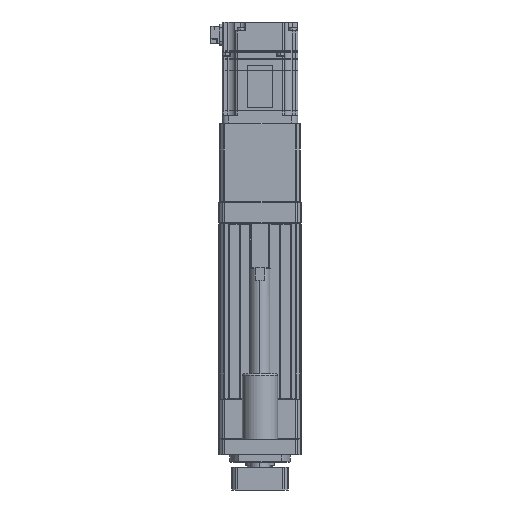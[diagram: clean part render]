
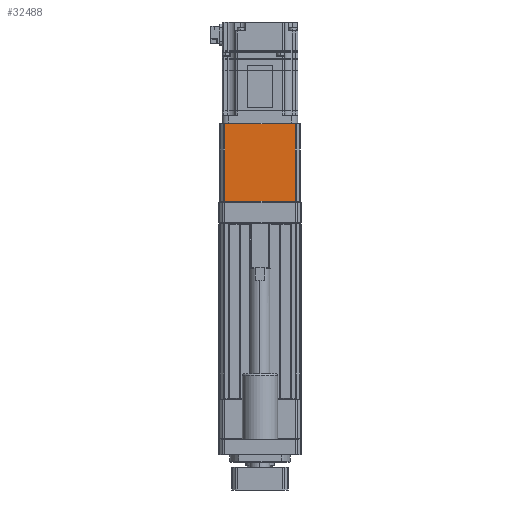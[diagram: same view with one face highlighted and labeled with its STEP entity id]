
A CAD part, front view. The second image highlights one B-rep face of the part: STEP entity #32488.
In plain terms, the highlighted planar face has unit normal (0, -1, 0).
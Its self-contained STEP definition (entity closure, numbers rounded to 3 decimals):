
#105 = VECTOR ( 'NONE', #13484, 1000. ) ;
#152 = ORIENTED_EDGE ( 'NONE', *, *, #1131, .T. ) ;
#769 = CARTESIAN_POINT ( 'NONE',  ( -28.079, -32., 156.5 ) ) ;
#1131 = EDGE_CURVE ( 'NONE', #39957, #7076, #42224, .T. ) ;
#2376 = DIRECTION ( 'NONE',  ( 0., 1., 0. ) ) ;
#3904 = DIRECTION ( 'NONE',  ( 0., 0., -1. ) ) ;
#5532 = VERTEX_POINT ( 'NONE', #31733 ) ;
#5868 = ORIENTED_EDGE ( 'NONE', *, *, #23112, .F. ) ;
#6006 = EDGE_CURVE ( 'NONE', #6396, #15816, #37619, .T. ) ;
#6396 = VERTEX_POINT ( 'NONE', #33475 ) ;
#7076 = VERTEX_POINT ( 'NONE', #769 ) ;
#8929 = ORIENTED_EDGE ( 'NONE', *, *, #6006, .T. ) ;
#10111 = CARTESIAN_POINT ( 'NONE',  ( -28.079, -32., 156.5 ) ) ;
#11845 = VECTOR ( 'NONE', #35977, 1000. ) ;
#12186 = FACE_OUTER_BOUND ( 'NONE', #17986, .T. ) ;
#13484 = DIRECTION ( 'NONE',  ( -1., 0., 0. ) ) ;
#14309 = VECTOR ( 'NONE', #36513, 1000. ) ;
#15374 = ORIENTED_EDGE ( 'NONE', *, *, #26096, .T. ) ;
#15816 = VERTEX_POINT ( 'NONE', #25337 ) ;
#17763 = EDGE_CURVE ( 'NONE', #7076, #5532, #23364, .T. ) ;
#17918 = VECTOR ( 'NONE', #44975, 1000. ) ;
#17975 = CARTESIAN_POINT ( 'NONE',  ( 28.079, -32., 218.5 ) ) ;
#17986 = EDGE_LOOP ( 'NONE', ( #5868, #15374, #152, #29047, #45068, #8929 ) ) ;
#19301 = LINE ( 'NONE', #17975, #35704 ) ;
#19646 = AXIS2_PLACEMENT_3D ( 'NONE', #33734, #2376, #26819 ) ;
#23112 = EDGE_CURVE ( 'NONE', #43985, #15816, #19301, .T. ) ;
#23364 = LINE ( 'NONE', #39335, #11845 ) ;
#25337 = CARTESIAN_POINT ( 'NONE',  ( 28.079, -32., 156.5 ) ) ;
#26096 = EDGE_CURVE ( 'NONE', #43985, #39957, #28015, .T. ) ;
#26819 = DIRECTION ( 'NONE',  ( 0., 0., 1. ) ) ;
#28015 = LINE ( 'NONE', #34434, #105 ) ;
#28340 = DIRECTION ( 'NONE',  ( 1., 0., 0. ) ) ;
#29047 = ORIENTED_EDGE ( 'NONE', *, *, #17763, .T. ) ;
#29503 = CARTESIAN_POINT ( 'NONE',  ( -28.079, -32., 218.5 ) ) ;
#31733 = CARTESIAN_POINT ( 'NONE',  ( -28.072, -32., 156.5 ) ) ;
#32488 = ADVANCED_FACE ( 'NONE', ( #12186 ), #40760, .F. ) ;
#33041 = LINE ( 'NONE', #35385, #42336 ) ;
#33475 = CARTESIAN_POINT ( 'NONE',  ( 28.072, -32., 156.5 ) ) ;
#33734 = CARTESIAN_POINT ( 'NONE',  ( -28.079, -32., 218.5 ) ) ;
#34434 = CARTESIAN_POINT ( 'NONE',  ( -28.079, -32., 218. ) ) ;
#35385 = CARTESIAN_POINT ( 'NONE',  ( -28.072, -32., 156.5 ) ) ;
#35704 = VECTOR ( 'NONE', #3904, 1000. ) ;
#35977 = DIRECTION ( 'NONE',  ( 1., 0., 0. ) ) ;
#36513 = DIRECTION ( 'NONE',  ( 0., 0., -1. ) ) ;
#36812 = CARTESIAN_POINT ( 'NONE',  ( -28.079, -32., 218. ) ) ;
#37619 = LINE ( 'NONE', #10111, #17918 ) ;
#38254 = EDGE_CURVE ( 'NONE', #5532, #6396, #33041, .T. ) ;
#39335 = CARTESIAN_POINT ( 'NONE',  ( -28.079, -32., 156.5 ) ) ;
#39957 = VERTEX_POINT ( 'NONE', #36812 ) ;
#40760 = PLANE ( 'NONE',  #19646 ) ;
#42224 = LINE ( 'NONE', #29503, #14309 ) ;
#42336 = VECTOR ( 'NONE', #28340, 1000. ) ;
#42954 = CARTESIAN_POINT ( 'NONE',  ( 28.079, -32., 218. ) ) ;
#43985 = VERTEX_POINT ( 'NONE', #42954 ) ;
#44975 = DIRECTION ( 'NONE',  ( 1., 0., 0. ) ) ;
#45068 = ORIENTED_EDGE ( 'NONE', *, *, #38254, .T. ) ;
